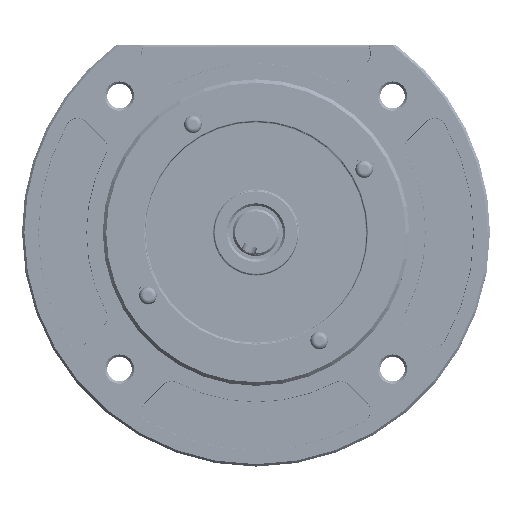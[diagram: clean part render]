
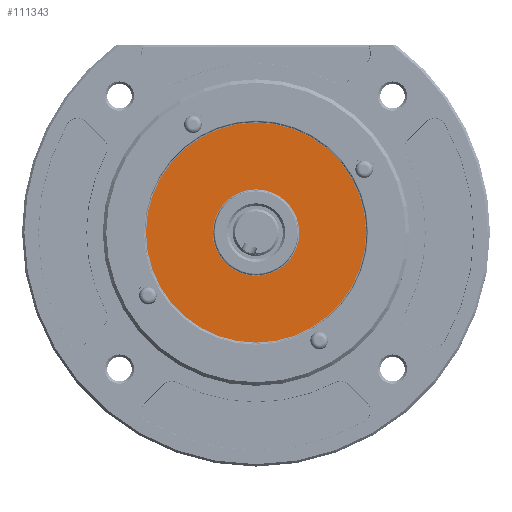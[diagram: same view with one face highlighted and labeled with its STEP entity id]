
A CAD part, top view. The second image highlights one B-rep face of the part: STEP entity #111343.
In plain terms, the highlighted planar face has unit normal (0, 0, 1).
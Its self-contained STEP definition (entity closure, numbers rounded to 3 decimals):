
#827 = CARTESIAN_POINT ( 'NONE',  ( 0., 0., 7. ) ) ;
#2620 = ORIENTED_EDGE ( 'NONE', *, *, #12797, .T. ) ;
#10782 = FACE_BOUND ( 'NONE', #33999, .T. ) ;
#12797 = EDGE_CURVE ( 'NONE', #26351, #30569, #102514, .T. ) ;
#16567 = DIRECTION ( 'NONE',  ( 1., 0., 0. ) ) ;
#18468 = AXIS2_PLACEMENT_3D ( 'NONE', #163825, #151111, #16567 ) ;
#21196 = CIRCLE ( 'NONE', #64768, 18.5 ) ;
#26351 = VERTEX_POINT ( 'NONE', #91022 ) ;
#29446 = CIRCLE ( 'NONE', #51169, 47. ) ;
#29772 = CARTESIAN_POINT ( 'NONE',  ( 0., 0., 7. ) ) ;
#30569 = VERTEX_POINT ( 'NONE', #73956 ) ;
#33642 = AXIS2_PLACEMENT_3D ( 'NONE', #172680, #112236, #115098 ) ;
#33999 = EDGE_LOOP ( 'NONE', ( #116746, #145270 ) ) ;
#48721 = ORIENTED_EDGE ( 'NONE', *, *, #54998, .T. ) ;
#51169 = AXIS2_PLACEMENT_3D ( 'NONE', #131967, #57915, #179739 ) ;
#54998 = EDGE_CURVE ( 'NONE', #30569, #26351, #29446, .T. ) ;
#57915 = DIRECTION ( 'NONE',  ( 0., 0., 1. ) ) ;
#64768 = AXIS2_PLACEMENT_3D ( 'NONE', #827, #90522, #150015 ) ;
#72533 = EDGE_CURVE ( 'NONE', #174720, #163182, #112161, .T. ) ;
#73956 = CARTESIAN_POINT ( 'NONE',  ( -47., 0., 7. ) ) ;
#90522 = DIRECTION ( 'NONE',  ( 0., 0., -1. ) ) ;
#91022 = CARTESIAN_POINT ( 'NONE',  ( 47., 0., 7. ) ) ;
#94488 = CARTESIAN_POINT ( 'NONE',  ( -18.5, 0., 7. ) ) ;
#97598 = FACE_OUTER_BOUND ( 'NONE', #125744, .T. ) ;
#102514 = CIRCLE ( 'NONE', #18468, 47. ) ;
#109116 = AXIS2_PLACEMENT_3D ( 'NONE', #29772, #135025, #148716 ) ;
#111343 = ADVANCED_FACE ( 'NONE', ( #10782, #97598 ), #126850, .T. ) ;
#112161 = CIRCLE ( 'NONE', #109116, 18.5 ) ;
#112236 = DIRECTION ( 'NONE',  ( 0., 0., 1. ) ) ;
#115098 = DIRECTION ( 'NONE',  ( 1., 0., 0. ) ) ;
#116746 = ORIENTED_EDGE ( 'NONE', *, *, #142893, .T. ) ;
#125744 = EDGE_LOOP ( 'NONE', ( #2620, #48721 ) ) ;
#126850 = PLANE ( 'NONE',  #33642 ) ;
#131967 = CARTESIAN_POINT ( 'NONE',  ( 0., 0., 7. ) ) ;
#135025 = DIRECTION ( 'NONE',  ( 0., 0., -1. ) ) ;
#142893 = EDGE_CURVE ( 'NONE', #163182, #174720, #21196, .T. ) ;
#145270 = ORIENTED_EDGE ( 'NONE', *, *, #72533, .T. ) ;
#148716 = DIRECTION ( 'NONE',  ( 1., 0., 0. ) ) ;
#150015 = DIRECTION ( 'NONE',  ( 1., 0., 0. ) ) ;
#151111 = DIRECTION ( 'NONE',  ( 0., 0., 1. ) ) ;
#163182 = VERTEX_POINT ( 'NONE', #178362 ) ;
#163825 = CARTESIAN_POINT ( 'NONE',  ( 0., 0., 7. ) ) ;
#172680 = CARTESIAN_POINT ( 'NONE',  ( 0., 0., 7. ) ) ;
#174720 = VERTEX_POINT ( 'NONE', #94488 ) ;
#178362 = CARTESIAN_POINT ( 'NONE',  ( 18.5, 0., 7. ) ) ;
#179739 = DIRECTION ( 'NONE',  ( 1., 0., 0. ) ) ;
